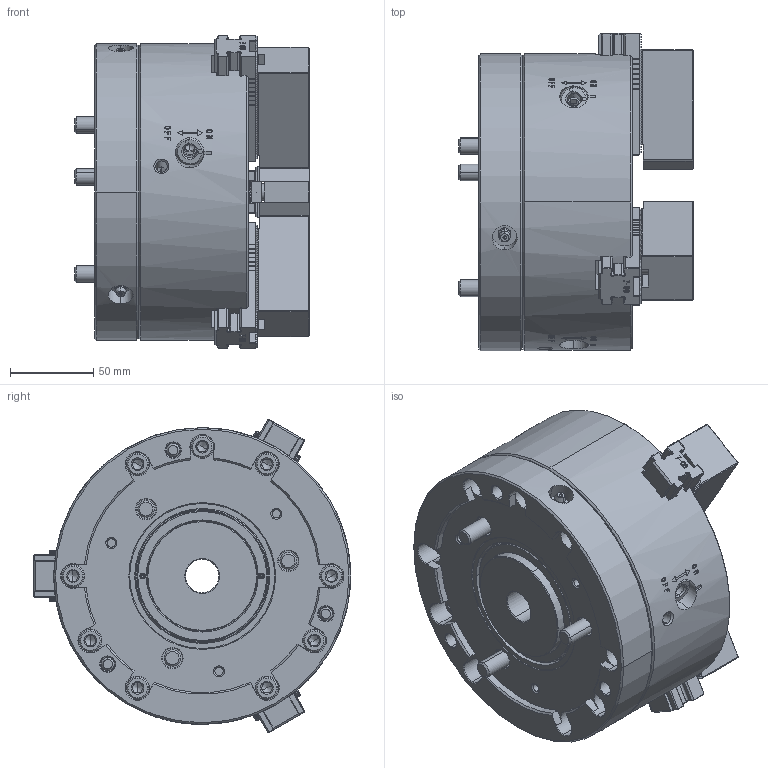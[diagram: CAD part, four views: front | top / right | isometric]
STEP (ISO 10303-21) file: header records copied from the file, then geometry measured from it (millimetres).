
FILE_DESCRIPTION (( 'STEP AP214' ), '1' );
FILE_NAME ('QJR07_61P274636-0_OC.STEP', '2026-03-12T05:25:35', ( '' ), ( '' ), 'SwSTEP 2.0', 'SolidWorks 2022', '' );
FILE_SCHEMA (( 'AUTOMOTIVE_DESIGN' ));
Length unit declared in the file: millimetre
Products named in the file (7): DT1_QJR07_BASE^DT1_QJR07; DT1_QJR07_JAW1^DT1_QJR07; DT1_QJR07_M10x90^DT1_QJR07; DT1_QJR07_DRAWNUT^DT1_QJR07; QJR07_61P274636-0_OC; Copy of 0030110030^DT1_QJR07; DT1_QJR07_SOFTJAW^DT1_QJR07
Assembly tree (17 placements, depth 2):
  QJR07_61P274636-0_OC
    DT1_QJR07_DRAWNUT^DT1_QJR07
    DT1_QJR07_SOFTJAW^DT1_QJR07  x3
    DT1_QJR07_M10x90^DT1_QJR07  x3
    Copy of 0030110030^DT1_QJR07  x6
    DT1_QJR07_JAW1^DT1_QJR07  x3
    DT1_QJR07_BASE^DT1_QJR07
Bounding box: 140.65 x 190.27 x 187.76 mm (x, y, z)
Volume: 2197927.1 mm3; surface area: 290640.3 mm2
Topology: 17 solids, 68 shells, 8017 faces, 22065 edges, 14423 vertices
Faces by surface type: plane 4780, cylinder 1580, bspline 974, cone 601, torus 73, sphere 9
Entity records: 210944 total; most frequent: CARTESIAN_POINT 85259, ORIENTED_EDGE 28622, DIRECTION 21623, EDGE_CURVE 14311, VERTEX_POINT 9385, VECTOR 9249, LINE 9249, AXIS2_PLACEMENT_3D 6187
